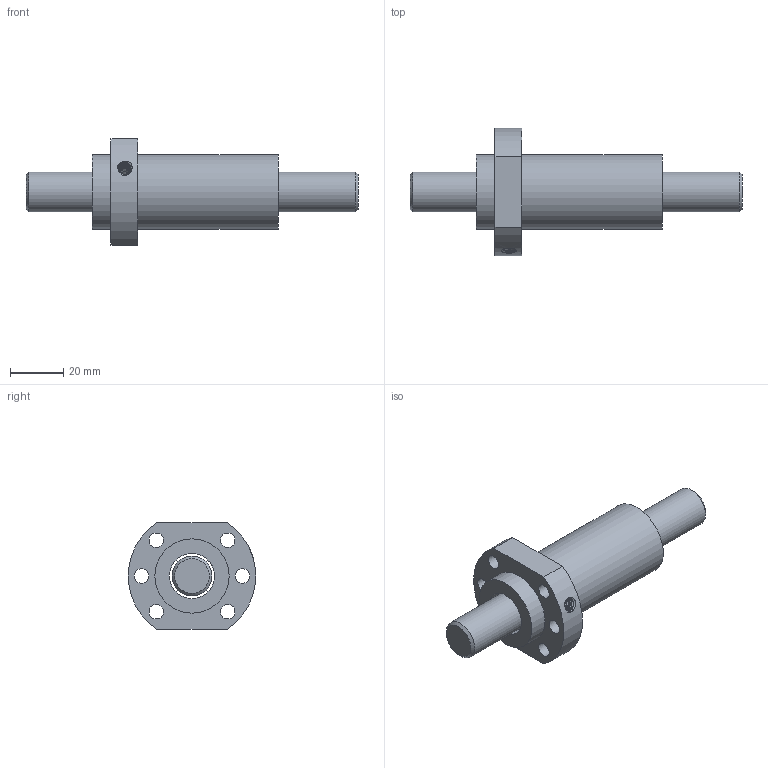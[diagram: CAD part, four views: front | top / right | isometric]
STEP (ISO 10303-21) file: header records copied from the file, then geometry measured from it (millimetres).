
FILE_DESCRIPTION (( 'STEP AP203' ), '1' );
FILE_NAME ('SFA1630-1.8.STEP', '2023-05-19T05:19:01', ( '' ), ( '' ), 'SwSTEP 2.0', 'SolidWorks 2022', '' );
FILE_SCHEMA (( 'CONFIG_CONTROL_DESIGN' ));
Length unit declared in the file: millimetre
Products named in the file (1): SFA1630-1.8
Bounding box: 125 x 48 x 40 mm (x, y, z)
Volume: 58055.9 mm3; surface area: 20579.3 mm2
Topology: 2 solids, 2 shells, 30 faces, 69 edges, 45 vertices
Faces by surface type: cylinder 16, plane 9, cone 3, bspline 2
Full cylindrical faces by diameter (mm): 4 x1, 4.917 x1, 5.5 x6, 15 x1, 17 x1, 28 x2
Entity records: 2608 total; most frequent: CARTESIAN_POINT 1908, DIRECTION 128, ORIENTED_EDGE 100, EDGE_LOOP 63, AXIS2_PLACEMENT_3D 60, EDGE_CURVE 50, FACE_OUTER_BOUND 42, VERTEX_POINT 41
